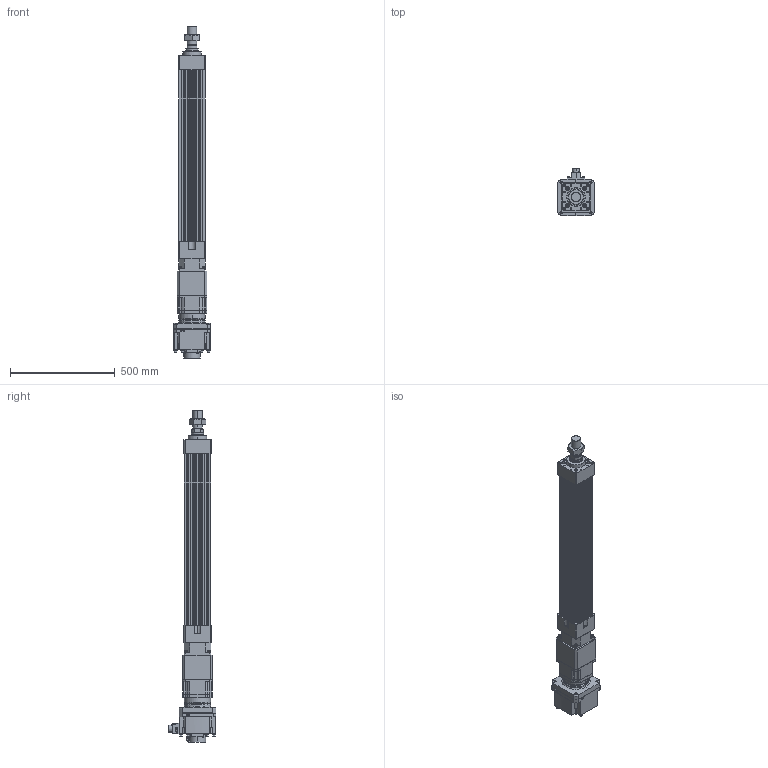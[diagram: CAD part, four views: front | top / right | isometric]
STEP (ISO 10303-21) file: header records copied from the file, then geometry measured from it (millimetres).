
FILE_DESCRIPTION (( 'STEP AP203' ), '1' );
FILE_NAME ('HES130FS(HS)-S600-W020G00-M.STEP', '2023-01-30T11:58:55', ( 'tms' ), ( '' ), 'SwSTEP 2.0', 'SolidWorks 2013', '' );
FILE_SCHEMA (( 'CONFIG_CONTROL_DESIGN' ));
Length unit declared in the file: millimetre
Products named in the file (9): P1301500001; P0403500801; HES130FS(HS)-S600-W020G00-M; AB142-003[HG-SR352]; HES130 ROD M ST600; HES130-S600-G142; HG-SR202; AB1421; M45X1.5P
Assembly tree (8 placements, depth 3):
  HES130FS(HS)-S600-W020G00-M
    HES130-S600-G142
    HES130 ROD M ST600
    M45X1.5P
    AB142-003[HG-SR352]
      AB1421
      P1301500001
      P0403500801
    HG-SR202
Bounding box: 176 x 228.85 x 1587.5 mm (x, y, z)
Volume: 13746781.9 mm3; surface area: 1803261.6 mm2
Topology: 4 solids, 22 shells, 1527 faces, 3928 edges, 2530 vertices
Faces by surface type: cylinder 683, plane 580, cone 182, bspline 76, torus 6
Entity records: 55214 total; most frequent: CARTESIAN_POINT 16756, DIRECTION 8052, ORIENTED_EDGE 7718, EDGE_CURVE 3881, AXIS2_PLACEMENT_3D 3043, VERTEX_POINT 2530, LINE 1966, VECTOR 1966
